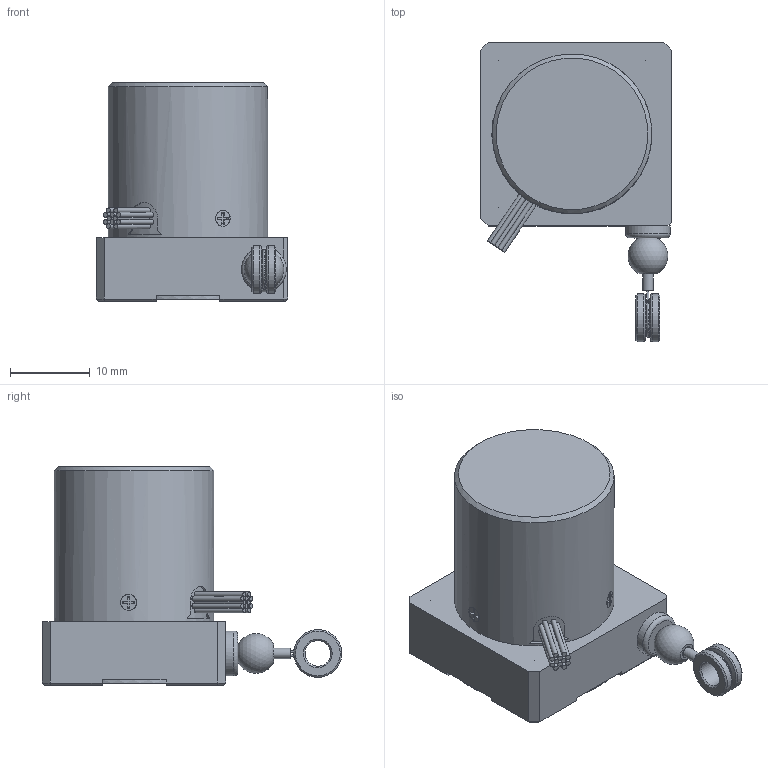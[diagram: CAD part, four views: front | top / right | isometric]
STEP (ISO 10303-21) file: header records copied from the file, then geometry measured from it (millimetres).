
FILE_DESCRIPTION(('STEP AP214'),'1');
FILE_NAME('MLA-17.stp','2025-05-12T04:56:19',(' '),(' '),'Spatial InterOp 3D',' ',' ');
FILE_SCHEMA(('AUTOMOTIVE_DESIGN { 1 0 10303 214 1 1 1 1 }'));
Length unit declared in the file: millimetre
Products named in the file (1): L07F03 MLA-17
Bounding box: 24 x 37.49 x 27.4 mm (x, y, z)
Volume: 10413.5 mm3; surface area: 3825.3 mm2
Topology: 1 solids, 6 shells, 299 faces, 754 edges, 490 vertices
Faces by surface type: plane 172, cylinder 91, cone 29, torus 6, sphere 1
Full cylindrical faces by diameter (mm): 0.25 x2, 0.6 x12, 0.65 x1, 1 x2, 1.3 x1, 1.5 x2, 1.6 x6, 2 x4, 3.2 x1, 3.6 x1, 4 x2, 4.6 x1, 5.6 x1, 6 x2, 20 x1
Entity records: 11461 total; most frequent: CARTESIAN_POINT 2254, DIRECTION 1362, ORIENTED_EDGE 1282, EDGE_CURVE 641, AXIS2_PLACEMENT_3D 486, VERTEX_POINT 455, EDGE_LOOP 403, LINE 390
